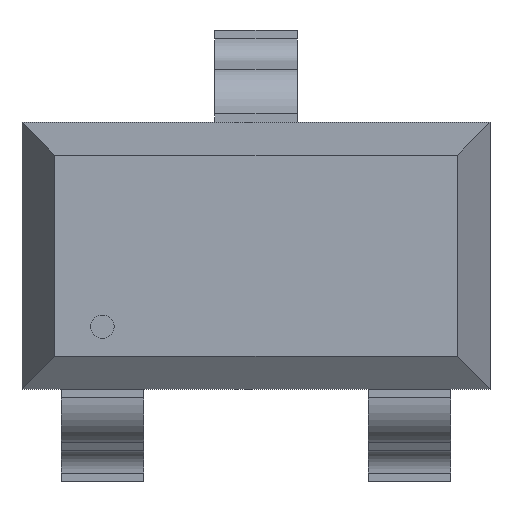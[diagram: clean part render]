
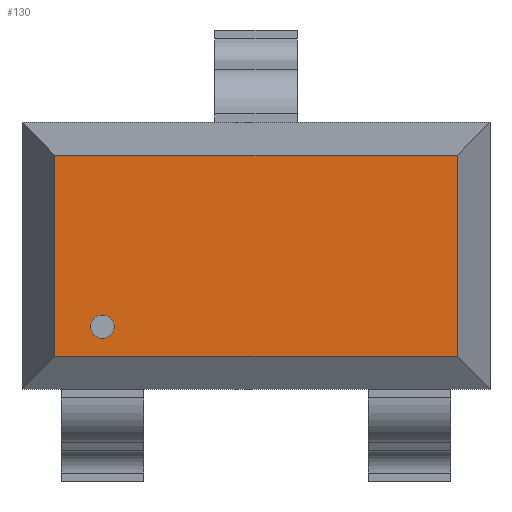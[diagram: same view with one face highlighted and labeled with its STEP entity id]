
A CAD part, top view. The second image highlights one B-rep face of the part: STEP entity #130.
In plain terms, the highlighted planar face has unit normal (0, 0, 1).
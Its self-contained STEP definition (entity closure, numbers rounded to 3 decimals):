
#130=ADVANCED_FACE('',(#136),#131,.T.);
#131=PLANE('',#132);
#132=AXIS2_PLACEMENT_3D('',#133,#134,#135);
#133=CARTESIAN_POINT('',(-1.245,-0.622,1.295));
#134=DIRECTION('',(0.0,0.0,1.0));
#135=DIRECTION('',(0.,1.,0.));
#136=FACE_OUTER_BOUND('',#137,.T.);
#137=EDGE_LOOP('',(#138,#148,#158,#168));
#141=CARTESIAN_POINT('',(1.245,-0.622,1.295));
#140=VERTEX_POINT('',#141);
#143=CARTESIAN_POINT('',(-1.245,-0.622,1.295));
#142=VERTEX_POINT('',#143);
#139=EDGE_CURVE('',#140,#142,#144,.T.);
#144=LINE('',#141,#146);
#146=VECTOR('',#147,2.489);
#147=DIRECTION('',(-1.0,0.0,0.0));
#138=ORIENTED_EDGE('',*,*,#139,.F.);
#151=CARTESIAN_POINT('',(1.245,0.622,1.295));
#150=VERTEX_POINT('',#151);
#149=EDGE_CURVE('',#150,#140,#154,.T.);
#154=LINE('',#151,#156);
#156=VECTOR('',#157,1.245);
#157=DIRECTION('',(0.0,-1.0,0.0));
#148=ORIENTED_EDGE('',*,*,#149,.F.);
#161=CARTESIAN_POINT('',(-1.245,0.622,1.295));
#160=VERTEX_POINT('',#161);
#159=EDGE_CURVE('',#160,#150,#164,.T.);
#164=LINE('',#161,#166);
#166=VECTOR('',#167,2.489);
#167=DIRECTION('',(1.0,0.0,0.0));
#158=ORIENTED_EDGE('',*,*,#159,.F.);
#169=EDGE_CURVE('',#142,#160,#174,.T.);
#174=LINE('',#143,#176);
#176=VECTOR('',#177,1.245);
#177=DIRECTION('',(0.0,1.0,0.0));
#168=ORIENTED_EDGE('',*,*,#169,.F.);
